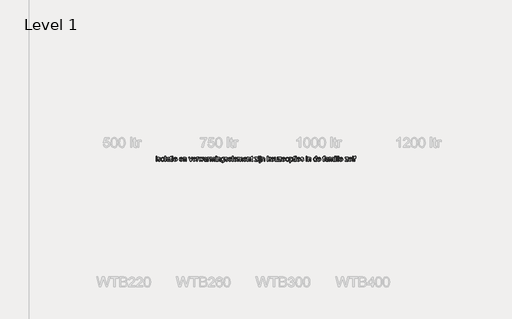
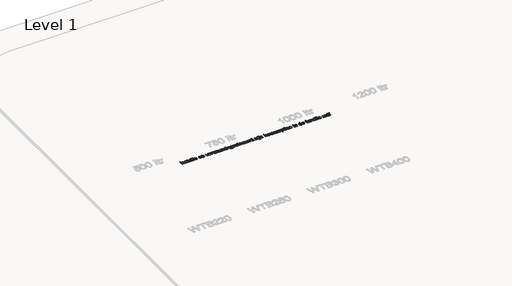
# One storey, part 28 of 34: 1 proxy.
"""IFC4 building model written with IfcOpenShell, lengths in millimetres."""

from ifc_helpers import new_model, si_unit, origin, origin_with_axes, place, context, project, spatial, polyline, outline, extrude, element, save

model = new_model("IFC4")

# Units and contexts
model_context = context("Model", 3, world=origin())
ifc_project = project(units=[si_unit("LENGTHUNIT", "METRE", prefix="MILLI")], contexts=[model_context])

# Site, building, storey
site = spatial("IfcSite", under=ifc_project)
building = spatial("IfcBuilding", under=site)
storey = spatial("IfcBuildingStorey", under=building, Name="Level 1", Elevation=0.0)

# Proxy
placement = place(None, origin())
element("IfcBuildingElementProxy", 1, Name="DN", ObjectType="DN", at=placement, inside=storey, context=model_context, shape_type="SweptSolid", body=[
    extrude(outline(polyline([(-16095.163222, 10942.2806038), (-16095.163222, 10997.6100558), (-16085.7454429, 10997.6100558), (-16085.7454429, 10942.2806038), (-16095.163222, 10942.2806038)])), origin_with_axes(), (0.0, 0.0, 1.0), 5.0),
    extrude(outline(polyline([(-16095.163222, 11008.2050573), (-16095.163222, 11017.6228364), (-16085.7454429, 11017.6228364), (-16085.7454429, 11008.2050573), (-16095.163222, 11008.2050573)])), origin_with_axes(), (0.0, 0.0, 1.0), 5.0),
    extrude(outline(polyline([(-16075.1504415, 10958.7617172), (-16065.7326624, 10959.9389395), (-16061.3732607, 10952.9491816), (-16051.3852646, 10950.5211605), (-16041.7835445, 10952.7468465), (-16038.6565475, 10957.9707709), (-16041.8019386, 10962.2014138), (-16051.4956292, 10964.8869524), (-16065.6774801, 10969.4946744), (-16071.8670946, 10974.8749485), (-16073.9732191, 10982.4717117), (-16072.2809619, 10989.4890608), (-16067.6640428, 10994.8509409), (-16061.6767634, 10997.637647), (-16053.5741624, 10998.7872782), (-16042.1146383, 10996.9386712), (-16034.8305748, 10991.9354761), (-16031.5932132, 10983.4833872), (-16041.0109923, 10982.3061648), (-16044.5518565, 10987.502498), (-16052.8383984, 10989.3694992), (-16061.8515073, 10987.5852715), (-16064.55544, 10983.4282049), (-16063.4333999, 10980.6874841), (-16059.9201269, 10978.6089508), (-16051.8083289, 10976.6039939), (-16037.9851629, 10972.1710159), (-16031.5656221, 10967.1494266), (-16029.2387685, 10958.9640523), (-16031.9702923, 10949.9509434), (-16039.852164, 10943.4118409), (-16051.5140233, 10941.1033814), (-16067.9399543, 10945.5547535), (-16075.1504415, 10958.7617172)])), origin_with_axes(), (0.0, 0.0, 1.0), 5.0),
    extrude(outline(polyline([(-16020.9982118, 10969.9453298), (-16018.9610652, 10983.2856507), (-16012.8496256, 10992.662043), (-16005.2988476, 10997.2559694), (-15996.2581476, 10998.7872782), (-15986.3644212, 10996.9225764), (-15978.4618561, 10991.3284708), (-15973.2816177, 10982.4464199), (-15971.5548716, 10970.717882), (-15974.6082922, 10953.9608571), (-15983.5018394, 10944.4786987), (-15996.2581476, 10941.1033814), (-16006.2714356, 10942.9611855), (-16014.1648037, 10948.5345977), (-16019.2898597, 10957.6028889), (-16020.9982118, 10969.9453298)]), holes=[polyline([(-16011.5804327, 10969.9637239), (-16007.221031, 10955.3680058), (-15996.2581476, 10950.5211605), (-15985.3320523, 10955.3955969), (-15980.9726507, 10970.2580295), (-15985.3596435, 10984.5226539), (-15996.2581476, 10989.3694992), (-16007.221031, 10984.541048), (-16011.5804327, 10969.9637239)])]), origin_with_axes(), (0.0, 0.0, 1.0), 5.0),
    extrude(outline(polyline([(-15960.9598701, 10942.2806038), (-15960.9598701, 11017.6228364), (-15951.5420911, 11017.6228364), (-15951.5420911, 10942.2806038), (-15960.9598701, 10942.2806038)])), origin_with_axes(), (0.0, 0.0, 1.0), 5.0),
    extrude(outline(polyline([(-15902.0987509, 10949.3439381), (-15911.2314215, 10942.9611855), (-15921.3205852, 10941.1033814), (-15934.9965983, 10945.5731476), (-15939.7698672, 10956.9958836), (-15937.9672454, 10964.445494), (-15933.2307648, 10969.8533593), (-15926.63648, 10972.9435681), (-15918.4878938, 10974.3599138), (-15902.1539332, 10977.5972753), (-15902.0987509, 10979.6942027), (-15904.692319, 10986.6471724), (-15915.1033794, 10989.3694992), (-15924.6315231, 10987.5576803), (-15929.1748658, 10981.1289425), (-15938.5926448, 10982.3061648), (-15934.5183517, 10991.5032147), (-15926.3145833, 10996.892686), (-15913.8893689, 10998.7872782), (-15902.47583, 10997.1134152), (-15896.028698, 10992.9103634), (-15893.1408243, 10986.5184137), (-15892.6809718, 10978.277857), (-15892.6809718, 10966.5608155), (-15892.2027252, 10950.1992637), (-15890.3265271, 10942.2806038), (-15899.7443062, 10942.2806038), (-15902.0987509, 10949.3439381)]), holes=[polyline([(-15902.0987509, 10968.1794962), (-15917.2922773, 10965.2916226), (-15925.3948783, 10963.7649123), (-15929.0645012, 10961.2817088), (-15930.3520881, 10957.6580712), (-15927.5469879, 10952.5629055), (-15919.3156283, 10950.5211605), (-15909.7874846, 10952.7744377), (-15903.6438553, 10958.2282883), (-15902.1539332, 10965.5123518), (-15902.0987509, 10968.1794962)])]), origin_with_axes(), (0.0, 0.0, 1.0), 5.0),
    extrude(outline(polyline([(-15859.7187451, 10950.1348844), (-15858.5415227, 10942.0046923), (-15865.5864629, 10941.1033814), (-15873.4775317, 10942.6668799), (-15877.413869, 10946.7687641), (-15878.5543032, 10957.4557361), (-15878.5543032, 10988.1922768), (-15885.6176375, 10988.1922768), (-15885.6176375, 10997.6100558), (-15878.5543032, 10997.6100558), (-15878.5543032, 11011.0561428), (-15869.1365242, 11016.5927668), (-15869.1365242, 10997.6100558), (-15859.7187451, 10997.6100558), (-15859.7187451, 10988.1922768), (-15869.1365242, 10988.1922768), (-15869.1365242, 10957.7316476), (-15868.6398835, 10952.8756052), (-15867.0303997, 10951.1557569), (-15863.8206293, 10950.5211605), (-15859.7187451, 10950.1348844)])), origin_with_axes(), (0.0, 0.0, 1.0), 5.0),
    extrude(outline(polyline([(-15850.300966, 10942.2806038), (-15850.300966, 10997.6100558), (-15840.8831869, 10997.6100558), (-15840.8831869, 10942.2806038), (-15850.300966, 10942.2806038)])), origin_with_axes(), (0.0, 0.0, 1.0), 5.0),
    extrude(outline(polyline([(-15850.300966, 11008.2050573), (-15850.300966, 11017.6228364), (-15840.8831869, 11017.6228364), (-15840.8831869, 11008.2050573), (-15850.300966, 11008.2050573)])), origin_with_axes(), (0.0, 0.0, 1.0), 5.0),
    extrude(outline(polyline([(-15788.0185442, 10958.7617172), (-15778.7847061, 10957.5844948), (-15787.420736, 10945.4259948), (-15803.5063762, 10941.1033814), (-15814.5566316, 10942.9680833), (-15823.0593043, 10948.5621888), (-15828.4809652, 10957.5224147), (-15830.2881855, 10969.4854773), (-15828.4625711, 10981.8509109), (-15822.9857279, 10991.0985445), (-15814.5980184, 10996.8650948), (-15804.0398051, 10998.7872782), (-15793.8103864, 10996.8696933), (-15785.6365083, 10991.1169386), (-15780.2769275, 10981.8876991), (-15778.4904005, 10969.5406596), (-15778.5455828, 10967.0022739), (-15820.8704064, 10967.0022739), (-15815.453344, 10954.7701975), (-15803.3224352, 10950.5211605), (-15794.0885971, 10952.4893291), (-15788.0185442, 10958.7617172)]), holes=[polyline([(-15820.8704064, 10976.4200529), (-15787.9081796, 10976.4200529), (-15791.6789701, 10984.9549152), (-15804.0765933, 10989.3694992), (-15815.6740732, 10985.8470291), (-15820.8704064, 10976.4200529)])]), origin_with_axes(), (0.0, 0.0, 1.0), 5.0),
    extrude(outline(polyline([(-15700.9040878, 10958.7617172), (-15691.6702497, 10957.5844948), (-15700.3062795, 10945.4259948), (-15716.3919198, 10941.1033814), (-15727.4421752, 10942.9680833), (-15735.9448478, 10948.5621888), (-15741.3665087, 10957.5224147), (-15743.173729, 10969.4854773), (-15741.3481146, 10981.8509109), (-15735.8712714, 10991.0985445), (-15727.4835619, 10996.8650948), (-15716.9253486, 10998.7872782), (-15706.6959299, 10996.8696933), (-15698.5220518, 10991.1169386), (-15693.162471, 10981.8876991), (-15691.3759441, 10969.5406596), (-15691.4311264, 10967.0022739), (-15733.7559499, 10967.0022739), (-15728.3388875, 10954.7701975), (-15716.2079788, 10950.5211605), (-15706.9741407, 10952.4893291), (-15700.9040878, 10958.7617172)]), holes=[polyline([(-15733.7559499, 10976.4200529), (-15700.7937232, 10976.4200529), (-15704.5645136, 10984.9549152), (-15716.9621368, 10989.3694992), (-15728.5596167, 10985.8470291), (-15733.7559499, 10976.4200529)])]), origin_with_axes(), (0.0, 0.0, 1.0), 5.0),
    extrude(outline(polyline([(-15681.958165, 10942.2806038), (-15681.958165, 10997.6100558), (-15672.5403859, 10997.6100558), (-15672.5403859, 10989.884534), (-15665.3390959, 10996.5615922), (-15655.5074496, 10998.7872782), (-15646.6139023, 10996.9938535), (-15640.5438494, 10992.284964), (-15637.7203551, 10985.3595854), (-15637.2237144, 10976.254506), (-15637.2237144, 10942.2806038), (-15646.6414935, 10942.2806038), (-15646.6414935, 10974.9853131), (-15647.7267454, 10983.3178403), (-15651.5619152, 10987.7232272), (-15658.0274412, 10989.3694992), (-15668.2453636, 10985.6722851), (-15672.5403859, 10971.637587), (-15672.5403859, 10942.2806038), (-15681.958165, 10942.2806038)])), origin_with_axes(), (0.0, 0.0, 1.0), 5.0),
    extrude(outline(polyline([(-15581.2688629, 10942.2806038), (-15600.7298205, 10997.6100558), (-15590.7602184, 10997.6100558), (-15578.9696005, 10964.4638881), (-15575.4195392, 10953.3170636), (-15571.9430543, 10963.8384887), (-15560.07886, 10997.6100558), (-15550.1092579, 10997.6100558), (-15569.3310922, 10942.2806038), (-15581.2688629, 10942.2806038)])), origin_with_axes(), (0.0, 0.0, 1.0), 5.0),
    extrude(outline(polyline([(-15503.1307272, 10958.7617172), (-15493.8968891, 10957.5844948), (-15502.5329189, 10945.4259948), (-15518.6185591, 10941.1033814), (-15529.6688146, 10942.9680833), (-15538.1714872, 10948.5621888), (-15543.5931481, 10957.5224147), (-15545.4003684, 10969.4854773), (-15543.574754, 10981.8509109), (-15538.0979108, 10991.0985445), (-15529.7102013, 10996.8650948), (-15519.151988, 10998.7872782), (-15508.9225693, 10996.8696933), (-15500.7486912, 10991.1169386), (-15495.3891104, 10981.8876991), (-15493.6025835, 10969.5406596), (-15493.6577658, 10967.0022739), (-15535.9825893, 10967.0022739), (-15530.5655269, 10954.7701975), (-15518.4346182, 10950.5211605), (-15509.2007801, 10952.4893291), (-15503.1307272, 10958.7617172)]), holes=[polyline([(-15535.9825893, 10976.4200529), (-15503.0203626, 10976.4200529), (-15506.791153, 10984.9549152), (-15519.1887762, 10989.3694992), (-15530.7862561, 10985.8470291), (-15535.9825893, 10976.4200529)])]), origin_with_axes(), (0.0, 0.0, 1.0), 5.0),
    extrude(outline(polyline([(-15484.1848044, 10942.2806038), (-15484.1848044, 10997.6100558), (-15475.9442477, 10997.6100558), (-15475.9442477, 10989.4246815), (-15470.094924, 10996.9662624), (-15464.2088121, 10998.7872782), (-15454.7542448, 10995.8810105), (-15457.8996358, 10987.4381187), (-15464.5215118, 10989.3694992), (-15469.8466036, 10987.5116951), (-15473.240315, 10982.3613471), (-15474.7670253, 10971.3616755), (-15474.7670253, 10942.2806038), (-15484.1848044, 10942.2806038)])), origin_with_axes(), (0.0, 0.0, 1.0), 5.0),
    extrude(outline(polyline([(-15439.6894771, 10942.2806038), (-15456.5200784, 10997.6100558), (-15446.7344173, 10997.6100558), (-15437.1878795, 10965.3284108), (-15434.3367941, 10953.7953102), (-15432.0007434, 10964.9053465), (-15424.4039802, 10997.6100558), (-15413.1835793, 10997.6100558), (-15405.6236043, 10964.997317), (-15403.5450711, 10954.9357444), (-15400.5652269, 10965.54914), (-15391.000295, 10997.6100558), (-15381.1778457, 10997.6100558), (-15398.1372057, 10942.2806038), (-15409.5231535, 10942.2806038), (-15416.7520347, 10974.7277957), (-15418.8489621, 10984.8445506), (-15428.1747706, 10942.2806038), (-15439.6894771, 10942.2806038)])), origin_with_axes(), (0.0, 0.0, 1.0), 5.0),
    extrude(outline(polyline([(-15339.3864511, 10949.3439381), (-15348.5191216, 10942.9611855), (-15358.6082853, 10941.1033814), (-15372.2842985, 10945.5731476), (-15377.0575674, 10956.9958836), (-15375.2549456, 10964.445494), (-15370.5184649, 10969.8533593), (-15363.9241802, 10972.9435681), (-15355.775594, 10974.3599138), (-15339.4416334, 10977.5972753), (-15339.3864511, 10979.6942027), (-15341.9800192, 10986.6471724), (-15352.3910796, 10989.3694992), (-15361.9192233, 10987.5576803), (-15366.4625659, 10981.1289425), (-15375.880345, 10982.3061648), (-15371.8060519, 10991.5032147), (-15363.6022834, 10996.892686), (-15351.177069, 10998.7872782), (-15339.7635301, 10997.1134152), (-15333.3163982, 10992.9103634), (-15330.4285245, 10986.5184137), (-15329.968672, 10978.277857), (-15329.968672, 10966.5608155), (-15329.4904254, 10950.1992637), (-15327.6142273, 10942.2806038), (-15337.0320063, 10942.2806038), (-15339.3864511, 10949.3439381)]), holes=[polyline([(-15339.3864511, 10968.1794962), (-15354.5799775, 10965.2916226), (-15362.6825784, 10963.7649123), (-15366.3522013, 10961.2817088), (-15367.6397883, 10957.6580712), (-15364.8346881, 10952.5629055), (-15356.6033285, 10950.5211605), (-15347.0751848, 10952.7744377), (-15340.9315555, 10958.2282883), (-15339.4416334, 10965.5123518), (-15339.3864511, 10968.1794962)])]), origin_with_axes(), (0.0, 0.0, 1.0), 5.0),
    extrude(outline(polyline([(-15317.0192258, 10942.2806038), (-15317.0192258, 10997.6100558), (-15308.7786691, 10997.6100558), (-15308.7786691, 10989.4246815), (-15302.9293454, 10996.9662624), (-15297.0432335, 10998.7872782), (-15287.5886662, 10995.8810105), (-15290.7340572, 10987.4381187), (-15297.3559331, 10989.3694992), (-15302.681025, 10987.5116951), (-15306.0747364, 10982.3613471), (-15307.6014467, 10971.3616755), (-15307.6014467, 10942.2806038), (-15317.0192258, 10942.2806038)])), origin_with_axes(), (0.0, 0.0, 1.0), 5.0),
    extrude(outline(polyline([(-15281.7025543, 10942.2806038), (-15281.7025543, 10997.6100558), (-15272.2847752, 10997.6100558), (-15272.2847752, 10988.5049765), (-15265.8100521, 10995.9637839), (-15256.5946081, 10998.7872782), (-15247.1584349, 10995.9086016), (-15241.9712988, 10987.8427889), (-15234.6228559, 10996.0511559), (-15225.3430326, 10998.7872782), (-15213.0281828, 10994.2347385), (-15208.7147664, 10980.2092375), (-15208.7147664, 10942.2806038), (-15218.1325455, 10942.2806038), (-15218.1325455, 10976.1625355), (-15219.0062652, 10984.0260132), (-15222.1700504, 10987.8979712), (-15227.5503246, 10989.3694992), (-15236.8117538, 10985.5987087), (-15240.4997708, 10973.5137852), (-15240.4997708, 10942.2806038), (-15249.9175499, 10942.2806038), (-15249.9175499, 10977.2109992), (-15252.0972507, 10986.3344727), (-15259.2433584, 10989.3694992), (-15266.2147223, 10987.3461482), (-15270.8500354, 10981.4232481), (-15272.2847752, 10970.1844531), (-15272.2847752, 10942.2806038), (-15281.7025543, 10942.2806038)])), origin_with_axes(), (0.0, 0.0, 1.0), 5.0),
    extrude(outline(polyline([(-15194.5880978, 11008.2050573), (-15194.5880978, 11017.6228364), (-15185.1703187, 11017.6228364), (-15185.1703187, 11008.2050573), (-15194.5880978, 11008.2050573)])), origin_with_axes(), (0.0, 0.0, 1.0), 5.0),
    extrude(outline(polyline([(-15194.5880978, 10942.2806038), (-15194.5880978, 10997.6100558), (-15185.1703187, 10997.6100558), (-15185.1703187, 10942.2806038), (-15194.5880978, 10942.2806038)])), origin_with_axes(), (0.0, 0.0, 1.0), 5.0),
    extrude(outline(polyline([(-15171.0436501, 10942.2806038), (-15171.0436501, 10997.6100558), (-15161.625871, 10997.6100558), (-15161.625871, 10989.884534), (-15154.424581, 10996.5615922), (-15144.5929347, 10998.7872782), (-15135.6993874, 10996.9938535), (-15129.6293345, 10992.284964), (-15126.8058402, 10985.3595854), (-15126.3091995, 10976.254506), (-15126.3091995, 10942.2806038), (-15135.7269786, 10942.2806038), (-15135.7269786, 10974.9853131), (-15136.8122305, 10983.3178403), (-15140.6474003, 10987.7232272), (-15147.1129263, 10989.3694992), (-15157.3308487, 10985.6722851), (-15161.625871, 10971.637587), (-15161.625871, 10942.2806038), (-15171.0436501, 10942.2806038)])), origin_with_axes(), (0.0, 0.0, 1.0), 5.0),
    extrude(outline(polyline([(-15115.714198, 10937.5717142), (-15106.296419, 10936.3944919), (-15103.2429984, 10931.4280849), (-15094.1011308, 10929.3311575), (-15084.4626225, 10931.7039964), (-15079.8640976, 10938.3626605), (-15079.2203041, 10949.3439381), (-15085.8513771, 10944.0464374), (-15093.9355839, 10942.2806038), (-15103.6453693, 10944.3361444), (-15110.8857468, 10950.5027664), (-15115.390002, 10959.5434664), (-15116.8914204, 10970.2212413), (-15114.1966848, 10984.8169595), (-15106.3975865, 10995.1452465), (-15094.3954364, 10998.7872782), (-15085.9939313, 10996.7271391), (-15079.2203041, 10990.5467215), (-15079.2203041, 10997.6100558), (-15069.802525, 10997.6100558), (-15069.802525, 10949.8405788), (-15072.377699, 10931.5476466), (-15080.5354822, 10923.0403754), (-15094.2850718, 10919.9133785), (-15109.9476478, 10924.3187654), (-15114.373728, 10929.834696), (-15115.714198, 10937.5717142)]), holes=[polyline([(-15107.4736413, 10970.8650348), (-15103.4545305, 10956.2877107), (-15093.3653668, 10951.6983829), (-15083.2945972, 10956.2601196), (-15079.2203041, 10970.5891233), (-15083.4141589, 10984.6330185), (-15093.5125196, 10989.3694992), (-15103.3993482, 10984.7065949), (-15107.4736413, 10970.8650348)])]), origin_with_axes(), (0.0, 0.0, 1.0), 5.0),
    extrude(outline(polyline([(-15059.2075236, 10958.7617172), (-15049.7897445, 10959.9389395), (-15045.4303429, 10952.9491816), (-15035.4423467, 10950.5211605), (-15025.8406266, 10952.7468465), (-15022.7136296, 10957.9707709), (-15025.8590207, 10962.2014138), (-15035.5527113, 10964.8869524), (-15049.7345622, 10969.4946744), (-15055.9241768, 10974.8749485), (-15058.0303012, 10982.4717117), (-15056.338044, 10989.4890608), (-15051.721125, 10994.8509409), (-15045.7338455, 10997.637647), (-15037.6312446, 10998.7872782), (-15026.1717204, 10996.9386712), (-15018.8876569, 10991.9354761), (-15015.6502953, 10983.4833872), (-15025.0680744, 10982.3061648), (-15028.6089386, 10987.502498), (-15036.8954806, 10989.3694992), (-15045.9085894, 10987.5852715), (-15048.6125221, 10983.4282049), (-15047.490482, 10980.6874841), (-15043.977209, 10978.6089508), (-15035.865411, 10976.6039939), (-15022.042245, 10972.1710159), (-15015.6227042, 10967.1494266), (-15013.2958506, 10958.9640523), (-15016.0273744, 10949.9509434), (-15023.9092461, 10943.4118409), (-15035.5711054, 10941.1033814), (-15051.9970365, 10945.5547535), (-15059.2075236, 10958.7617172)])), origin_with_axes(), (0.0, 0.0, 1.0), 5.0),
    extrude(outline(polyline([(-14963.962875, 10958.7617172), (-14954.7290369, 10957.5844948), (-14963.3650668, 10945.4259948), (-14979.450707, 10941.1033814), (-14990.5009624, 10942.9680833), (-14999.0036351, 10948.5621888), (-15004.425296, 10957.5224147), (-15006.2325163, 10969.4854773), (-15004.4069019, 10981.8509109), (-14998.9300587, 10991.0985445), (-14990.5423492, 10996.8650948), (-14979.9841359, 10998.7872782), (-14969.7547172, 10996.8696933), (-14961.5808391, 10991.1169386), (-14956.2212583, 10981.8876991), (-14954.4347313, 10969.5406596), (-14954.4899136, 10967.0022739), (-14996.8147372, 10967.0022739), (-14991.3976748, 10954.7701975), (-14979.266766, 10950.5211605), (-14970.0329279, 10952.4893291), (-14963.962875, 10958.7617172)]), holes=[polyline([(-14996.8147372, 10976.4200529), (-14963.8525104, 10976.4200529), (-14967.6233009, 10984.9549152), (-14980.0209241, 10989.3694992), (-14991.618404, 10985.8470291), (-14996.8147372, 10976.4200529)])]), origin_with_axes(), (0.0, 0.0, 1.0), 5.0),
    extrude(outline(polyline([(-14945.0169523, 10942.2806038), (-14945.0169523, 11017.6228364), (-14935.5991732, 11017.6228364), (-14935.5991732, 10942.2806038), (-14945.0169523, 10942.2806038)])), origin_with_axes(), (0.0, 0.0, 1.0), 5.0),
    extrude(outline(polyline([(-14882.7345305, 10958.7617172), (-14873.5006924, 10957.5844948), (-14882.1367222, 10945.4259948), (-14898.2223625, 10941.1033814), (-14909.2726179, 10942.9680833), (-14917.7752905, 10948.5621888), (-14923.1969514, 10957.5224147), (-14925.0041717, 10969.4854773), (-14923.1785573, 10981.8509109), (-14917.7017141, 10991.0985445), (-14909.3140046, 10996.8650948), (-14898.7557914, 10998.7872782), (-14888.5263726, 10996.8696933), (-14880.3524946, 10991.1169386), (-14874.9929137, 10981.8876991), (-14873.2063868, 10969.5406596), (-14873.2615691, 10967.0022739), (-14915.5863927, 10967.0022739), (-14910.1693303, 10954.7701975), (-14898.0384215, 10950.5211605), (-14888.8045834, 10952.4893291), (-14882.7345305, 10958.7617172)]), holes=[polyline([(-14915.5863927, 10976.4200529), (-14882.6241659, 10976.4200529), (-14886.3949563, 10984.9549152), (-14898.7925796, 10989.3694992), (-14910.3900595, 10985.8470291), (-14915.5863927, 10976.4200529)])]), origin_with_axes(), (0.0, 0.0, 1.0), 5.0),
    extrude(outline(polyline([(-14863.7886077, 10942.2806038), (-14863.7886077, 10997.6100558), (-14854.3708287, 10997.6100558), (-14854.3708287, 10988.5049765), (-14847.8961055, 10995.9637839), (-14838.6806616, 10998.7872782), (-14829.2444884, 10995.9086016), (-14824.0573523, 10987.8427889), (-14816.7089094, 10996.0511559), (-14807.4290861, 10998.7872782), (-14795.1142363, 10994.2347385), (-14790.8008199, 10980.2092375), (-14790.8008199, 10942.2806038), (-14800.218599, 10942.2806038), (-14800.218599, 10976.1625355), (-14801.0923187, 10984.0260132), (-14804.2561039, 10987.8979712), (-14809.636378, 10989.3694992), (-14818.8978073, 10985.5987087), (-14822.5858243, 10973.5137852), (-14822.5858243, 10942.2806038), (-14832.0036033, 10942.2806038), (-14832.0036033, 10977.2109992), (-14834.1833042, 10986.3344727), (-14841.3294119, 10989.3694992), (-14848.3007757, 10987.3461482), (-14852.9360889, 10981.4232481), (-14854.3708287, 10970.1844531), (-14854.3708287, 10942.2806038), (-14863.7886077, 10942.2806038)])), origin_with_axes(), (0.0, 0.0, 1.0), 5.0),
    extrude(outline(polyline([(-14737.9361772, 10958.7617172), (-14728.7023391, 10957.5844948), (-14737.3383689, 10945.4259948), (-14753.4240092, 10941.1033814), (-14764.4742646, 10942.9680833), (-14772.9769372, 10948.5621888), (-14778.3985981, 10957.5224147), (-14780.2058184, 10969.4854773), (-14778.380204, 10981.8509109), (-14772.9033608, 10991.0985445), (-14764.5156513, 10996.8650948), (-14753.9574381, 10998.7872782), (-14743.7280193, 10996.8696933), (-14735.5541413, 10991.1169386), (-14730.1945604, 10981.8876991), (-14728.4080335, 10969.5406596), (-14728.4632158, 10967.0022739), (-14770.7880394, 10967.0022739), (-14765.370977, 10954.7701975), (-14753.2400682, 10950.5211605), (-14744.0062301, 10952.4893291), (-14737.9361772, 10958.7617172)]), holes=[polyline([(-14770.7880394, 10976.4200529), (-14737.8258126, 10976.4200529), (-14741.596603, 10984.9549152), (-14753.9942263, 10989.3694992), (-14765.5917062, 10985.8470291), (-14770.7880394, 10976.4200529)])]), origin_with_axes(), (0.0, 0.0, 1.0), 5.0),
    extrude(outline(polyline([(-14718.9902544, 10942.2806038), (-14718.9902544, 10997.6100558), (-14709.5724754, 10997.6100558), (-14709.5724754, 10989.884534), (-14702.3711853, 10996.5615922), (-14692.539539, 10998.7872782), (-14683.6459917, 10996.9938535), (-14677.5759388, 10992.284964), (-14674.7524445, 10985.3595854), (-14674.2558038, 10976.254506), (-14674.2558038, 10942.2806038), (-14683.6735829, 10942.2806038), (-14683.6735829, 10974.9853131), (-14684.7588348, 10983.3178403), (-14688.5940046, 10987.7232272), (-14695.0595306, 10989.3694992), (-14705.2774531, 10985.6722851), (-14709.5724754, 10971.637587), (-14709.5724754, 10942.2806038), (-14718.9902544, 10942.2806038)])), origin_with_axes(), (0.0, 0.0, 1.0), 5.0),
    extrude(outline(polyline([(-14641.2935771, 10950.1348844), (-14640.1163547, 10942.0046923), (-14647.1612949, 10941.1033814), (-14655.0523637, 10942.6668799), (-14658.988701, 10946.7687641), (-14660.1291352, 10957.4557361), (-14660.1291352, 10988.1922768), (-14667.1924695, 10988.1922768), (-14667.1924695, 10997.6100558), (-14660.1291352, 10997.6100558), (-14660.1291352, 11011.0561428), (-14650.7113561, 11016.5927668), (-14650.7113561, 10997.6100558), (-14641.2935771, 10997.6100558), (-14641.2935771, 10988.1922768), (-14650.7113561, 10988.1922768), (-14650.7113561, 10957.7316476), (-14650.2147154, 10952.8756052), (-14648.6052317, 10951.1557569), (-14645.3954613, 10950.5211605), (-14641.2935771, 10950.1348844)])), origin_with_axes(), (0.0, 0.0, 1.0), 5.0),
    extrude(outline(polyline([(-14608.3313503, 10942.2806038), (-14608.3313503, 10951.1465599), (-14575.828976, 10988.1922768), (-14585.4490902, 10988.1922768), (-14605.9769055, 10988.1922768), (-14605.9769055, 10997.6100558), (-14562.4196773, 10997.6100558), (-14562.4196773, 10989.6086225), (-14591.2432316, 10956.7383662), (-14595.6578155, 10951.6983829), (-14584.7685085, 10951.6983829), (-14561.2424549, 10951.6983829), (-14561.2424549, 10942.2806038), (-14608.3313503, 10942.2806038)])), origin_with_axes(), (0.0, 0.0, 1.0), 5.0),
    extrude(outline(polyline([(-14551.8246758, 11008.2050573), (-14551.8246758, 11017.6228364), (-14542.4068967, 11017.6228364), (-14542.4068967, 11008.2050573), (-14551.8246758, 11008.2050573)])), origin_with_axes(), (0.0, 0.0, 1.0), 5.0),
    extrude(outline(polyline([(-14551.8246758, 10942.2806038), (-14551.8246758, 10997.6100558), (-14542.4068967, 10997.6100558), (-14542.4068967, 10942.2806038), (-14551.8246758, 10942.2806038)])), origin_with_axes(), (0.0, 0.0, 1.0), 5.0),
    extrude(outline(polyline([(-14528.2802281, 11008.2050573), (-14528.2802281, 11017.6228364), (-14518.8624491, 11017.6228364), (-14518.8624491, 11008.2050573), (-14528.2802281, 11008.2050573)])), origin_with_axes(), (0.0, 0.0, 1.0), 5.0),
    extrude(outline(polyline([(-14540.1444225, 10921.0538127), (-14538.1578597, 10930.0117392), (-14533.8352463, 10929.3311575), (-14529.6505886, 10931.1981587), (-14528.2802281, 10940.5331643), (-14528.2802281, 10997.6100558), (-14518.8624491, 10997.6100558), (-14518.8624491, 10939.3191537), (-14521.5295935, 10925.1189087), (-14526.036148, 10921.214761), (-14532.7867826, 10919.9133785), (-14540.1444225, 10921.0538127)])), origin_with_axes(), (0.0, 0.0, 1.0), 5.0),
    extrude(outline(polyline([(-14504.7357804, 10942.2806038), (-14504.7357804, 10997.6100558), (-14495.3180014, 10997.6100558), (-14495.3180014, 10989.884534), (-14488.1167113, 10996.5615922), (-14478.285065, 10998.7872782), (-14469.3915178, 10996.9938535), (-14463.3214648, 10992.284964), (-14460.4979705, 10985.3595854), (-14460.0013298, 10976.254506), (-14460.0013298, 10942.2806038), (-14469.4191089, 10942.2806038), (-14469.4191089, 10974.9853131), (-14470.5043608, 10983.3178403), (-14474.3395306, 10987.7232272), (-14480.8050567, 10989.3694992), (-14491.0229791, 10985.6722851), (-14495.3180014, 10971.637587), (-14495.3180014, 10942.2806038), (-14504.7357804, 10942.2806038)])), origin_with_axes(), (0.0, 0.0, 1.0), 5.0),
    extrude(outline(polyline([(-14417.621324, 10942.2806038), (-14417.621324, 11017.6228364), (-14408.2035449, 11017.6228364), (-14408.2035449, 10977.1374228), (-14387.0871184, 10997.6100558), (-14374.0640958, 10997.6100558), (-14395.4380397, 10976.8799054), (-14372.8868734, 10942.2806038), (-14383.886545, 10942.2806038), (-14402.1886743, 10970.3316059), (-14408.2035449, 10964.5006763), (-14408.2035449, 10942.2806038), (-14417.621324, 10942.2806038)])), origin_with_axes(), (0.0, 0.0, 1.0), 5.0),
    extrude(outline(polyline([(-14325.9083426, 10958.7617172), (-14316.6745045, 10957.5844948), (-14325.3105343, 10945.4259948), (-14341.3961746, 10941.1033814), (-14352.44643, 10942.9680833), (-14360.9491026, 10948.5621888), (-14366.3707635, 10957.5224147), (-14368.1779838, 10969.4854773), (-14366.3523694, 10981.8509109), (-14360.8755262, 10991.0985445), (-14352.4878167, 10996.8650948), (-14341.9296035, 10998.7872782), (-14331.7001847, 10996.8696933), (-14323.5263067, 10991.1169386), (-14318.1667258, 10981.8876991), (-14316.3801989, 10969.5406596), (-14316.4353812, 10967.0022739), (-14358.7602048, 10967.0022739), (-14353.3431424, 10954.7701975), (-14341.2122336, 10950.5211605), (-14331.9783955, 10952.4893291), (-14325.9083426, 10958.7617172)]), holes=[polyline([(-14358.7602048, 10976.4200529), (-14325.797978, 10976.4200529), (-14329.5687684, 10984.9549152), (-14341.9663917, 10989.3694992), (-14353.5638716, 10985.8470291), (-14358.7602048, 10976.4200529)])]), origin_with_axes(), (0.0, 0.0, 1.0), 5.0),
    extrude(outline(polyline([(-14271.6457483, 10942.2806038), (-14271.6457483, 10951.7903533), (-14279.0217823, 10943.7751244), (-14288.6418965, 10941.1033814), (-14297.4986555, 10942.9795796), (-14303.6054966, 10947.6884691), (-14306.4105968, 10954.6230447), (-14306.9624198, 10963.3786362), (-14306.9624198, 10997.6100558), (-14297.5446408, 10997.6100558), (-14297.5446408, 10967.8116142), (-14296.9744237, 10958.2098942), (-14293.2496185, 10952.5721026), (-14286.2322694, 10950.5211605), (-14278.3687918, 10952.6180878), (-14273.1724586, 10958.3294558), (-14271.6457483, 10968.8232897), (-14271.6457483, 10997.6100558), (-14262.2279692, 10997.6100558), (-14262.2279692, 10942.2806038), (-14271.6457483, 10942.2806038)])), origin_with_axes(), (0.0, 0.0, 1.0), 5.0),
    extrude(outline(polyline([(-14255.1646349, 10942.2806038), (-14255.1646349, 10951.1465599), (-14222.6622606, 10988.1922768), (-14232.2823748, 10988.1922768), (-14252.8101901, 10988.1922768), (-14252.8101901, 10997.6100558), (-14209.2529619, 10997.6100558), (-14209.2529619, 10989.6086225), (-14238.0765162, 10956.7383662), (-14242.4911002, 10951.6983829), (-14231.6017931, 10951.6983829), (-14208.0757395, 10951.6983829), (-14208.0757395, 10942.2806038), (-14255.1646349, 10942.2806038)])), origin_with_axes(), (0.0, 0.0, 1.0), 5.0),
    extrude(outline(polyline([(-14159.9199864, 10958.7617172), (-14150.6861483, 10957.5844948), (-14159.3221781, 10945.4259948), (-14175.4078184, 10941.1033814), (-14186.4580738, 10942.9680833), (-14194.9607464, 10948.5621888), (-14200.3824073, 10957.5224147), (-14202.1896276, 10969.4854773), (-14200.3640132, 10981.8509109), (-14194.88717, 10991.0985445), (-14186.4994605, 10996.8650948), (-14175.9412473, 10998.7872782), (-14165.7118285, 10996.8696933), (-14157.5379504, 10991.1169386), (-14152.1783696, 10981.8876991), (-14150.3918427, 10969.5406596), (-14150.447025, 10967.0022739), (-14192.7718485, 10967.0022739), (-14187.3547862, 10954.7701975), (-14175.2238774, 10950.5211605), (-14165.9900393, 10952.4893291), (-14159.9199864, 10958.7617172)]), holes=[polyline([(-14192.7718485, 10976.4200529), (-14159.8096218, 10976.4200529), (-14163.5804122, 10984.9549152), (-14175.9780355, 10989.3694992), (-14187.5755153, 10985.8470291), (-14192.7718485, 10976.4200529)])]), origin_with_axes(), (0.0, 0.0, 1.0), 5.0),
    extrude(outline(polyline([(-14143.3285084, 10969.9453298), (-14141.2913618, 10983.2856507), (-14135.1799222, 10992.662043), (-14127.6291442, 10997.2559694), (-14118.5884442, 10998.7872782), (-14108.6947178, 10996.9225764), (-14100.7921527, 10991.3284708), (-14095.6119143, 10982.4464199), (-14093.8851682, 10970.717882), (-14096.9385888, 10953.9608571), (-14105.832136, 10944.4786987), (-14118.5884442, 10941.1033814), (-14128.6017323, 10942.9611855), (-14136.4951003, 10948.5345977), (-14141.6201564, 10957.6028889), (-14143.3285084, 10969.9453298)]), holes=[polyline([(-14133.9107293, 10969.9637239), (-14129.5513277, 10955.3680058), (-14118.5884442, 10950.5211605), (-14107.6623489, 10955.3955969), (-14103.3029473, 10970.2580295), (-14107.6899401, 10984.5226539), (-14118.5884442, 10989.3694992), (-14129.5513277, 10984.541048), (-14133.9107293, 10969.9637239)])]), origin_with_axes(), (0.0, 0.0, 1.0), 5.0),
    extrude(outline(polyline([(-14083.2901668, 10921.0906009), (-14083.2901668, 10997.6100558), (-14073.8723877, 10997.6100558), (-14073.8723877, 10988.3762178), (-14067.3608764, 10996.1845131), (-14058.5684967, 10998.7872782), (-14046.6307259, 10995.1452465), (-14038.8316276, 10984.8813388), (-14036.2012714, 10970.3683941), (-14039.1719185, 10955.1104884), (-14047.7987513, 10944.717822), (-14059.7089309, 10941.1033814), (-14067.9035023, 10943.5222055), (-14073.8723877, 10949.6382437), (-14073.8723877, 10921.0906009), (-14083.2901668, 10921.0906009)]), holes=[polyline([(-14073.8723877, 10969.5038714), (-14069.7980946, 10955.1564736), (-14059.911266, 10950.5211605), (-14049.8221023, 10955.3220205), (-14045.6190505, 10970.2028472), (-14049.7209347, 10984.5870332), (-14059.5249899, 10989.3694992), (-14069.5221831, 10984.2835306), (-14073.8723877, 10969.5038714)])]), origin_with_axes(), (0.0, 0.0, 1.0), 5.0),
    extrude(outline(polyline([(-14005.5934894, 10950.1348844), (-14004.416267, 10942.0046923), (-14011.4612072, 10941.1033814), (-14019.352276, 10942.6668799), (-14023.2886134, 10946.7687641), (-14024.4290475, 10957.4557361), (-14024.4290475, 10988.1922768), (-14031.4923818, 10988.1922768), (-14031.4923818, 10997.6100558), (-14024.4290475, 10997.6100558), (-14024.4290475, 11011.0561428), (-14015.0112685, 11016.5927668), (-14015.0112685, 10997.6100558), (-14005.5934894, 10997.6100558), (-14005.5934894, 10988.1922768), (-14015.0112685, 10988.1922768), (-14015.0112685, 10957.7316476), (-14014.5146278, 10952.8756052), (-14012.905144, 10951.1557569), (-14009.6953736, 10950.5211605), (-14005.5934894, 10950.1348844)])), origin_with_axes(), (0.0, 0.0, 1.0), 5.0),
    extrude(outline(polyline([(-13996.1757103, 11008.2050573), (-13996.1757103, 11017.6228364), (-13986.7579312, 11017.6228364), (-13986.7579312, 11008.2050573), (-13996.1757103, 11008.2050573)])), origin_with_axes(), (0.0, 0.0, 1.0), 5.0),
    extrude(outline(polyline([(-13996.1757103, 10942.2806038), (-13996.1757103, 10997.6100558), (-13986.7579312, 10997.6100558), (-13986.7579312, 10942.2806038), (-13996.1757103, 10942.2806038)])), origin_with_axes(), (0.0, 0.0, 1.0), 5.0),
    extrude(outline(polyline([(-13933.8932885, 10958.7617172), (-13924.6594504, 10957.5844948), (-13933.2954803, 10945.4259948), (-13949.3811205, 10941.1033814), (-13960.431376, 10942.9680833), (-13968.9340486, 10948.5621888), (-13974.3557095, 10957.5224147), (-13976.1629298, 10969.4854773), (-13974.3373154, 10981.8509109), (-13968.8604722, 10991.0985445), (-13960.4727627, 10996.8650948), (-13949.9145494, 10998.7872782), (-13939.6851307, 10996.8696933), (-13931.5112526, 10991.1169386), (-13926.1516718, 10981.8876991), (-13924.3651448, 10969.5406596), (-13924.4203271, 10967.0022739), (-13966.7451507, 10967.0022739), (-13961.3280883, 10954.7701975), (-13949.1971795, 10950.5211605), (-13939.9633414, 10952.4893291), (-13933.8932885, 10958.7617172)]), holes=[polyline([(-13966.7451507, 10976.4200529), (-13933.7829239, 10976.4200529), (-13937.5537144, 10984.9549152), (-13949.9513376, 10989.3694992), (-13961.5488175, 10985.8470291), (-13966.7451507, 10976.4200529)])]), origin_with_axes(), (0.0, 0.0, 1.0), 5.0),
    extrude(outline(polyline([(-13918.4790329, 10958.7617172), (-13909.0612539, 10959.9389395), (-13904.7018522, 10952.9491816), (-13894.713856, 10950.5211605), (-13885.112136, 10952.7468465), (-13881.985139, 10957.9707709), (-13885.1305301, 10962.2014138), (-13894.8242206, 10964.8869524), (-13909.0060716, 10969.4946744), (-13915.1956861, 10974.8749485), (-13917.3018105, 10982.4717117), (-13915.6095534, 10989.4890608), (-13910.9926343, 10994.8509409), (-13905.0053549, 10997.637647), (-13896.9027539, 10998.7872782), (-13885.4432298, 10996.9386712), (-13878.1591663, 10991.9354761), (-13874.9218047, 10983.4833872), (-13884.3395838, 10982.3061648), (-13887.880448, 10987.502498), (-13896.1669899, 10989.3694992), (-13905.1800988, 10987.5852715), (-13907.8840315, 10983.4282049), (-13906.7619914, 10980.6874841), (-13903.2487183, 10978.6089508), (-13895.1369203, 10976.6039939), (-13881.3137544, 10972.1710159), (-13874.8942135, 10967.1494266), (-13872.5673599, 10958.9640523), (-13875.2988837, 10949.9509434), (-13883.1807555, 10943.4118409), (-13894.8426147, 10941.1033814), (-13911.2685458, 10945.5547535), (-13918.4790329, 10958.7617172)])), origin_with_axes(), (0.0, 0.0, 1.0), 5.0),
    extrude(outline(polyline([(-13832.5417989, 11008.2050573), (-13832.5417989, 11017.6228364), (-13823.1240198, 11017.6228364), (-13823.1240198, 11008.2050573), (-13832.5417989, 11008.2050573)])), origin_with_axes(), (0.0, 0.0, 1.0), 5.0),
    extrude(outline(polyline([(-13832.5417989, 10942.2806038), (-13832.5417989, 10997.6100558), (-13823.1240198, 10997.6100558), (-13823.1240198, 10942.2806038), (-13832.5417989, 10942.2806038)])), origin_with_axes(), (0.0, 0.0, 1.0), 5.0),
    extrude(outline(polyline([(-13808.9973512, 10942.2806038), (-13808.9973512, 10997.6100558), (-13799.5795721, 10997.6100558), (-13799.5795721, 10989.884534), (-13792.378282, 10996.5615922), (-13782.5466357, 10998.7872782), (-13773.6530885, 10996.9938535), (-13767.5830356, 10992.284964), (-13764.7595412, 10985.3595854), (-13764.2629005, 10976.254506), (-13764.2629005, 10942.2806038), (-13773.6806796, 10942.2806038), (-13773.6806796, 10974.9853131), (-13774.7659315, 10983.3178403), (-13778.6011013, 10987.7232272), (-13785.0666274, 10989.3694992), (-13795.2845498, 10985.6722851), (-13799.5795721, 10971.637587), (-13799.5795721, 10942.2806038), (-13808.9973512, 10942.2806038)])), origin_with_axes(), (0.0, 0.0, 1.0), 5.0),
    extrude(outline(polyline([(-13687.7434456, 10942.2806038), (-13687.7434456, 10951.164954), (-13693.9744468, 10943.6187745), (-13702.5874841, 10941.1033814), (-13714.2493433, 10944.7454131), (-13722.4899, 10954.9081533), (-13725.4145619, 10969.8901475), (-13722.7198262, 10984.8813388), (-13714.6448164, 10995.2004288), (-13702.6242723, 10998.7872782), (-13693.9422572, 10996.2213013), (-13687.7434456, 10989.5534402), (-13687.7434456, 11017.6228364), (-13678.3256665, 11017.6228364), (-13678.3256665, 10942.2806038), (-13687.7434456, 10942.2806038)]), holes=[polyline([(-13715.9967828, 10969.9269357), (-13711.7477457, 10955.3496117), (-13701.7229614, 10950.5211605), (-13691.8177386, 10955.1288825), (-13687.7434456, 10969.2095658), (-13691.891315, 10984.4950627), (-13702.1092375, 10989.3694992), (-13712.0236572, 10984.6882008), (-13715.9967828, 10969.9269357)])]), origin_with_axes(), (0.0, 0.0, 1.0), 5.0),
    extrude(outline(polyline([(-13625.4610238, 10958.7617172), (-13616.2271857, 10957.5844948), (-13624.8632155, 10945.4259948), (-13640.9488558, 10941.1033814), (-13651.9991112, 10942.9680833), (-13660.5017838, 10948.5621888), (-13665.9234447, 10957.5224147), (-13667.730665, 10969.4854773), (-13665.9050506, 10981.8509109), (-13660.4282074, 10991.0985445), (-13652.0404979, 10996.8650948), (-13641.4822847, 10998.7872782), (-13631.2528659, 10996.8696933), (-13623.0789878, 10991.1169386), (-13617.719407, 10981.8876991), (-13615.9328801, 10969.5406596), (-13615.9880624, 10967.0022739), (-13658.3128859, 10967.0022739), (-13652.8958236, 10954.7701975), (-13640.7649148, 10950.5211605), (-13631.5310767, 10952.4893291), (-13625.4610238, 10958.7617172)]), holes=[polyline([(-13658.3128859, 10976.4200529), (-13625.3506592, 10976.4200529), (-13629.1214496, 10984.9549152), (-13641.5190729, 10989.3694992), (-13653.1165528, 10985.8470291), (-13658.3128859, 10976.4200529)])]), origin_with_axes(), (0.0, 0.0, 1.0), 5.0),
    extrude(outline(polyline([(-13574.7300966, 10942.2806038), (-13574.7300966, 10988.1922768), (-13582.9706533, 10988.1922768), (-13582.9706533, 10997.6100558), (-13574.7300966, 10997.6100558), (-13574.7300966, 11003.1834681), (-13573.7368152, 11011.0377487), (-13568.9175611, 11016.6479491), (-13559.4262056, 11018.8000588), (-13550.836161, 11017.7699892), (-13552.2157185, 11008.9408213), (-13557.641978, 11009.3822797), (-13563.5740751, 11007.8187812), (-13565.3123176, 11001.9878516), (-13565.3123176, 10997.6100558), (-13554.7173161, 10997.6100558), (-13554.7173161, 10988.1922768), (-13565.3123176, 10988.1922768), (-13565.3123176, 10942.2806038), (-13574.7300966, 10942.2806038)])), origin_with_axes(), (0.0, 0.0, 1.0), 5.0),
    extrude(outline(polyline([(-13511.1600879, 10949.3439381), (-13520.2927584, 10942.9611855), (-13530.3819221, 10941.1033814), (-13544.0579353, 10945.5731476), (-13548.8312042, 10956.9958836), (-13547.0285824, 10964.445494), (-13542.2921017, 10969.8533593), (-13535.6978169, 10972.9435681), (-13527.5492308, 10974.3599138), (-13511.2152702, 10977.5972753), (-13511.1600879, 10979.6942027), (-13513.7536559, 10986.6471724), (-13524.1647164, 10989.3694992), (-13533.6928601, 10987.5576803), (-13538.2362027, 10981.1289425), (-13547.6539818, 10982.3061648), (-13543.5796887, 10991.5032147), (-13535.3759202, 10996.892686), (-13522.9507058, 10998.7872782), (-13511.5371669, 10997.1134152), (-13505.0900349, 10992.9103634), (-13502.2021613, 10986.5184137), (-13501.7423088, 10978.277857), (-13501.7423088, 10966.5608155), (-13501.2640622, 10950.1992637), (-13499.387864, 10942.2806038), (-13508.8056431, 10942.2806038), (-13511.1600879, 10949.3439381)]), holes=[polyline([(-13511.1600879, 10968.1794962), (-13526.3536143, 10965.2916226), (-13534.4562152, 10963.7649123), (-13538.1258381, 10961.2817088), (-13539.4134251, 10957.6580712), (-13536.6083249, 10952.5629055), (-13528.3769652, 10950.5211605), (-13518.8488216, 10952.7744377), (-13512.7051922, 10958.2282883), (-13511.2152702, 10965.5123518), (-13511.1600879, 10968.1794962)])]), origin_with_axes(), (0.0, 0.0, 1.0), 5.0),
    extrude(outline(polyline([(-13488.7928626, 10942.2806038), (-13488.7928626, 10997.6100558), (-13479.3750835, 10997.6100558), (-13479.3750835, 10988.5049765), (-13472.9003604, 10995.9637839), (-13463.6849164, 10998.7872782), (-13454.2487432, 10995.9086016), (-13449.0616071, 10987.8427889), (-13441.7131642, 10996.0511559), (-13432.4333409, 10998.7872782), (-13420.1184911, 10994.2347385), (-13415.8050747, 10980.2092375), (-13415.8050747, 10942.2806038), (-13425.2228538, 10942.2806038), (-13425.2228538, 10976.1625355), (-13426.0965735, 10984.0260132), (-13429.2603587, 10987.8979712), (-13434.6406329, 10989.3694992), (-13443.9020621, 10985.5987087), (-13447.5900791, 10973.5137852), (-13447.5900791, 10942.2806038), (-13457.0078582, 10942.2806038), (-13457.0078582, 10977.2109992), (-13459.187559, 10986.3344727), (-13466.3336668, 10989.3694992), (-13473.3050306, 10987.3461482), (-13477.9403437, 10981.4232481), (-13479.3750835, 10970.1844531), (-13479.3750835, 10942.2806038), (-13488.7928626, 10942.2806038)])), origin_with_axes(), (0.0, 0.0, 1.0), 5.0),
    extrude(outline(polyline([(-13401.6784061, 11008.2050573), (-13401.6784061, 11017.6228364), (-13392.260627, 11017.6228364), (-13392.260627, 11008.2050573), (-13401.6784061, 11008.2050573)])), origin_with_axes(), (0.0, 0.0, 1.0), 5.0),
    extrude(outline(polyline([(-13401.6784061, 10942.2806038), (-13401.6784061, 10997.6100558), (-13392.260627, 10997.6100558), (-13392.260627, 10942.2806038), (-13401.6784061, 10942.2806038)])), origin_with_axes(), (0.0, 0.0, 1.0), 5.0),
    extrude(outline(polyline([(-13378.1339584, 10942.2806038), (-13378.1339584, 11017.6228364), (-13368.7161793, 11017.6228364), (-13368.7161793, 10942.2806038), (-13378.1339584, 10942.2806038)])), origin_with_axes(), (0.0, 0.0, 1.0), 5.0),
    extrude(outline(polyline([(-13354.5895107, 11008.2050573), (-13354.5895107, 11017.6228364), (-13345.1717316, 11017.6228364), (-13345.1717316, 11008.2050573), (-13354.5895107, 11008.2050573)])), origin_with_axes(), (0.0, 0.0, 1.0), 5.0),
    extrude(outline(polyline([(-13354.5895107, 10942.2806038), (-13354.5895107, 10997.6100558), (-13345.1717316, 10997.6100558), (-13345.1717316, 10942.2806038), (-13354.5895107, 10942.2806038)])), origin_with_axes(), (0.0, 0.0, 1.0), 5.0),
    extrude(outline(polyline([(-13292.3070889, 10958.7617172), (-13283.0732509, 10957.5844948), (-13291.7092807, 10945.4259948), (-13307.7949209, 10941.1033814), (-13318.8451764, 10942.9680833), (-13327.347849, 10948.5621888), (-13332.7695099, 10957.5224147), (-13334.5767302, 10969.4854773), (-13332.7511158, 10981.8509109), (-13327.2742726, 10991.0985445), (-13318.8865631, 10996.8650948), (-13308.3283498, 10998.7872782), (-13298.0989311, 10996.8696933), (-13289.925053, 10991.1169386), (-13284.5654722, 10981.8876991), (-13282.7789453, 10969.5406596), (-13282.8341276, 10967.0022739), (-13325.1589511, 10967.0022739), (-13319.7418887, 10954.7701975), (-13307.6109799, 10950.5211605), (-13298.3771419, 10952.4893291), (-13292.3070889, 10958.7617172)]), holes=[polyline([(-13325.1589511, 10976.4200529), (-13292.1967243, 10976.4200529), (-13295.9675148, 10984.9549152), (-13308.365138, 10989.3694992), (-13319.9626179, 10985.8470291), (-13325.1589511, 10976.4200529)])]), origin_with_axes(), (0.0, 0.0, 1.0), 5.0),
    extrude(outline(polyline([(-13249.8167185, 10942.2806038), (-13249.8167185, 10951.1465599), (-13217.3143442, 10988.1922768), (-13226.9344584, 10988.1922768), (-13247.4622737, 10988.1922768), (-13247.4622737, 10997.6100558), (-13203.9050455, 10997.6100558), (-13203.9050455, 10989.6086225), (-13232.7285998, 10956.7383662), (-13237.1431838, 10951.6983829), (-13226.2538767, 10951.6983829), (-13202.7278231, 10951.6983829), (-13202.7278231, 10942.2806038), (-13249.8167185, 10942.2806038)])), origin_with_axes(), (0.0, 0.0, 1.0), 5.0),
    extrude(outline(polyline([(-13154.5720699, 10958.7617172), (-13145.3382319, 10957.5844948), (-13153.9742617, 10945.4259948), (-13170.0599019, 10941.1033814), (-13181.1101574, 10942.9680833), (-13189.61283, 10948.5621888), (-13195.0344909, 10957.5224147), (-13196.8417112, 10969.4854773), (-13195.0160968, 10981.8509109), (-13189.5392536, 10991.0985445), (-13181.1515441, 10996.8650948), (-13170.5933308, 10998.7872782), (-13160.3639121, 10996.8696933), (-13152.190034, 10991.1169386), (-13146.8304532, 10981.8876991), (-13145.0439263, 10969.5406596), (-13145.0991086, 10967.0022739), (-13187.4239321, 10967.0022739), (-13182.0068697, 10954.7701975), (-13169.8759609, 10950.5211605), (-13160.6421229, 10952.4893291), (-13154.5720699, 10958.7617172)]), holes=[polyline([(-13187.4239321, 10976.4200529), (-13154.4617053, 10976.4200529), (-13158.2324958, 10984.9549152), (-13170.630119, 10989.3694992), (-13182.2275989, 10985.8470291), (-13187.4239321, 10976.4200529)])]), origin_with_axes(), (0.0, 0.0, 1.0), 5.0),
    extrude(outline(polyline([(-13135.6261472, 10942.2806038), (-13135.6261472, 11017.6228364), (-13126.2083681, 11017.6228364), (-13126.2083681, 10942.2806038), (-13135.6261472, 10942.2806038)])), origin_with_axes(), (0.0, 0.0, 1.0), 5.0),
    extrude(outline(polyline([(-13109.7272547, 10942.2806038), (-13109.7272547, 10988.1922768), (-13117.9678114, 10988.1922768), (-13117.9678114, 10997.6100558), (-13109.7272547, 10997.6100558), (-13109.7272547, 11003.1834681), (-13108.7339733, 11011.0377487), (-13103.9147192, 11016.6479491), (-13094.4233637, 11018.8000588), (-13085.8333191, 11017.7699892), (-13087.2128766, 11008.9408213), (-13092.6391361, 11009.3822797), (-13098.5712332, 11007.8187812), (-13100.3094757, 11001.9878516), (-13100.3094757, 10997.6100558), (-13089.7144742, 10997.6100558), (-13089.7144742, 10988.1922768), (-13100.3094757, 10988.1922768), (-13100.3094757, 10942.2806038), (-13109.7272547, 10942.2806038)])), origin_with_axes(), (0.0, 0.0, 1.0), 5.0),
])

save(model, "model.ifc")
